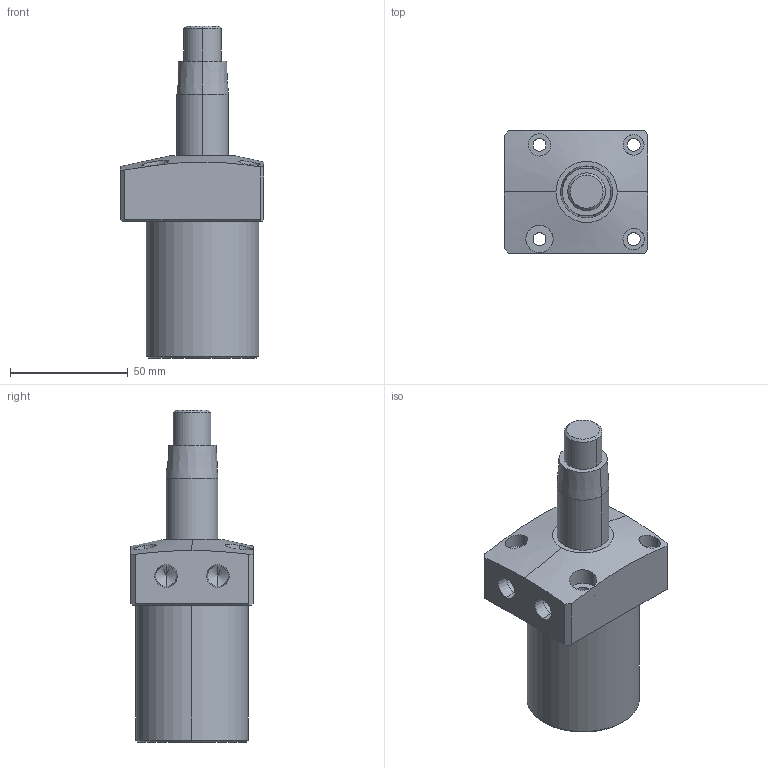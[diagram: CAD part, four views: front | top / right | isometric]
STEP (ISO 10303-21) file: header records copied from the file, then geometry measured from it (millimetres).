
FILE_DESCRIPTION (( 'STEP AP214' ), '1' );
FILE_NAME ('SC02-482-L-TAPER-TAPER.STEP', '2021-08-22T06:36:52', ( '' ), ( '' ), 'SwSTEP 2.0', 'SolidWorks 2019', '' );
FILE_SCHEMA (( 'AUTOMOTIVE_DESIGN' ));
Length unit declared in the file: millimetre
Products named in the file (3): TOP-48-BODY; 48-TAPER-PISTON; SC02-482-L-TAPER-TAPER
Assembly tree (2 placements, depth 2):
  SC02-482-L-TAPER-TAPER
    TOP-48-BODY
    48-TAPER-PISTON
Bounding box: 61 x 52 x 141 mm (x, y, z)
Volume: 185454.1 mm3; surface area: 34843.6 mm2
Topology: 2 solids, 2 shells, 77 faces, 178 edges, 112 vertices
Faces by surface type: cylinder 32, plane 29, cone 16
Entity records: 2608 total; most frequent: CARTESIAN_POINT 728, DIRECTION 388, ORIENTED_EDGE 348, EDGE_CURVE 174, AXIS2_PLACEMENT_3D 152, VERTEX_POINT 112, EDGE_LOOP 96, VECTOR 84
